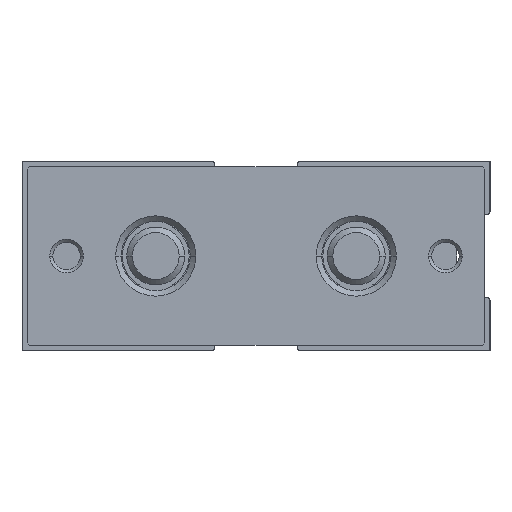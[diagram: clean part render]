
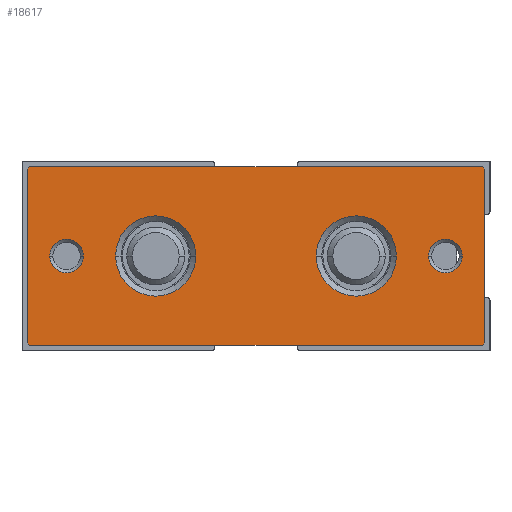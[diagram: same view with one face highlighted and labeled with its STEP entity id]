
A CAD part, left-side view. The second image highlights one B-rep face of the part: STEP entity #18617.
In plain terms, the highlighted planar face has unit normal (-1, 0, 0).
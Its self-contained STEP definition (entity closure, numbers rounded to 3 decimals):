
#213 = AXIS2_PLACEMENT_3D ( 'NONE', #5588, #2145, #14335 ) ;
#222 = VERTEX_POINT ( 'NONE', #12771 ) ;
#280 = VECTOR ( 'NONE', #19187, 1000. ) ;
#383 = CARTESIAN_POINT ( 'NONE',  ( 0., 16., 20.3 ) ) ;
#426 = EDGE_CURVE ( 'NONE', #22476, #20728, #16951, .T. ) ;
#1076 = VERTEX_POINT ( 'NONE', #12300 ) ;
#1451 = EDGE_CURVE ( 'NONE', #22312, #18138, #3182, .T. ) ;
#1710 = CARTESIAN_POINT ( 'NONE',  ( 0., 8., -18.5 ) ) ;
#1715 = ORIENTED_EDGE ( 'NONE', *, *, #426, .F. ) ;
#1783 = PLANE ( 'NONE',  #13578 ) ;
#1932 = VECTOR ( 'NONE', #8802, 1000. ) ;
#2071 = EDGE_CURVE ( 'NONE', #222, #17056, #3910, .T. ) ;
#2145 = DIRECTION ( 'NONE',  ( -1., 0., 0. ) ) ;
#2394 = CARTESIAN_POINT ( 'NONE',  ( 0., 15.8, 20.5 ) ) ;
#2403 = VERTEX_POINT ( 'NONE', #20626 ) ;
#2559 = DIRECTION ( 'NONE',  ( 0., 0.707, 0.707 ) ) ;
#2681 = LINE ( 'NONE', #10565, #19322 ) ;
#2845 = AXIS2_PLACEMENT_3D ( 'NONE', #4913, #9991, #17190 ) ;
#3182 = CIRCLE ( 'NONE', #15525, 1.5 ) ;
#3199 = AXIS2_PLACEMENT_3D ( 'NONE', #9785, #16834, #6094 ) ;
#3461 = EDGE_CURVE ( 'NONE', #8962, #20728, #9820, .T. ) ;
#3619 = EDGE_CURVE ( 'NONE', #9625, #4781, #18855, .T. ) ;
#3632 = ORIENTED_EDGE ( 'NONE', *, *, #21584, .F. ) ;
#3910 = CIRCLE ( 'NONE', #17027, 3.6 ) ;
#3973 = LINE ( 'NONE', #7692, #16246 ) ;
#4209 = CARTESIAN_POINT ( 'NONE',  ( 0., 0.2, 20.5 ) ) ;
#4326 = VERTEX_POINT ( 'NONE', #16011 ) ;
#4384 = EDGE_CURVE ( 'NONE', #8962, #2403, #2681, .T. ) ;
#4781 = VERTEX_POINT ( 'NONE', #21719 ) ;
#4913 = CARTESIAN_POINT ( 'NONE',  ( 0., 8., 9. ) ) ;
#5035 = CARTESIAN_POINT ( 'NONE',  ( 0., 8., 15.5 ) ) ;
#5552 = EDGE_CURVE ( 'NONE', #16589, #1076, #5688, .T. ) ;
#5588 = CARTESIAN_POINT ( 'NONE',  ( 0., 8., -17. ) ) ;
#5678 = CARTESIAN_POINT ( 'NONE',  ( 0., 8., -9. ) ) ;
#5683 = ORIENTED_EDGE ( 'NONE', *, *, #17288, .T. ) ;
#5688 = CIRCLE ( 'NONE', #17853, 1.5 ) ;
#5771 = CARTESIAN_POINT ( 'NONE',  ( 0., 0.2, -20.5 ) ) ;
#5876 = ORIENTED_EDGE ( 'NONE', *, *, #20905, .F. ) ;
#6086 = CARTESIAN_POINT ( 'NONE',  ( 0., 15.8, -20.5 ) ) ;
#6094 = DIRECTION ( 'NONE',  ( 0., 0., 1. ) ) ;
#6449 = DIRECTION ( 'NONE',  ( 0., 0., 1. ) ) ;
#6590 = EDGE_LOOP ( 'NONE', ( #20164, #16697 ) ) ;
#6711 = CIRCLE ( 'NONE', #9252, 1.5 ) ;
#6776 = ORIENTED_EDGE ( 'NONE', *, *, #3619, .T. ) ;
#6869 = ORIENTED_EDGE ( 'NONE', *, *, #1451, .F. ) ;
#6955 = AXIS2_PLACEMENT_3D ( 'NONE', #19544, #12065, #21137 ) ;
#7390 = CARTESIAN_POINT ( 'NONE',  ( 0., 0., 20.3 ) ) ;
#7398 = CARTESIAN_POINT ( 'NONE',  ( 0., 0., 0. ) ) ;
#7464 = CARTESIAN_POINT ( 'NONE',  ( 0., 0., -20.3 ) ) ;
#7669 = ORIENTED_EDGE ( 'NONE', *, *, #3461, .T. ) ;
#7684 = ORIENTED_EDGE ( 'NONE', *, *, #20576, .T. ) ;
#7692 = CARTESIAN_POINT ( 'NONE',  ( 0., 16., -20.3 ) ) ;
#8046 = FACE_BOUND ( 'NONE', #14387, .T. ) ;
#8206 = DIRECTION ( 'NONE',  ( -1., 0., 0. ) ) ;
#8254 = CARTESIAN_POINT ( 'NONE',  ( 0., 15.8, -20.5 ) ) ;
#8717 = CARTESIAN_POINT ( 'NONE',  ( 0., 8., -17. ) ) ;
#8802 = DIRECTION ( 'NONE',  ( 0., -0.707, 0.707 ) ) ;
#8915 = DIRECTION ( 'NONE',  ( 0., -0.707, -0.707 ) ) ;
#8962 = VERTEX_POINT ( 'NONE', #4209 ) ;
#9207 = DIRECTION ( 'NONE',  ( 1., 0., 0. ) ) ;
#9252 = AXIS2_PLACEMENT_3D ( 'NONE', #13607, #8206, #10074 ) ;
#9625 = VERTEX_POINT ( 'NONE', #8254 ) ;
#9694 = CIRCLE ( 'NONE', #3199, 3.6 ) ;
#9785 = CARTESIAN_POINT ( 'NONE',  ( 0., 8., -9. ) ) ;
#9820 = LINE ( 'NONE', #20101, #14428 ) ;
#9882 = DIRECTION ( 'NONE',  ( 0., 1., 0. ) ) ;
#9911 = FACE_OUTER_BOUND ( 'NONE', #19866, .T. ) ;
#9930 = ORIENTED_EDGE ( 'NONE', *, *, #2071, .F. ) ;
#9991 = DIRECTION ( 'NONE',  ( -1., 0., 0. ) ) ;
#10037 = EDGE_CURVE ( 'NONE', #22476, #4326, #3973, .T. ) ;
#10074 = DIRECTION ( 'NONE',  ( 0., 0., 1. ) ) ;
#10386 = ORIENTED_EDGE ( 'NONE', *, *, #17916, .F. ) ;
#10565 = CARTESIAN_POINT ( 'NONE',  ( 0., 0.2, 20.5 ) ) ;
#10623 = DIRECTION ( 'NONE',  ( 0., -1., 0. ) ) ;
#10637 = EDGE_CURVE ( 'NONE', #1076, #16589, #6711, .T. ) ;
#10816 = LINE ( 'NONE', #6086, #13593 ) ;
#10952 = EDGE_CURVE ( 'NONE', #18138, #22312, #18710, .T. ) ;
#11349 = CARTESIAN_POINT ( 'NONE',  ( 0., 8., -12.6 ) ) ;
#11380 = VERTEX_POINT ( 'NONE', #21398 ) ;
#11523 = CARTESIAN_POINT ( 'NONE',  ( 0., 8., 17. ) ) ;
#11553 = FACE_BOUND ( 'NONE', #6590, .T. ) ;
#11662 = CARTESIAN_POINT ( 'NONE',  ( 0., 8., 12.6 ) ) ;
#11922 = VECTOR ( 'NONE', #18075, 1000. ) ;
#12065 = DIRECTION ( 'NONE',  ( -1., 0., 0. ) ) ;
#12300 = CARTESIAN_POINT ( 'NONE',  ( 0., 8., 18.5 ) ) ;
#12771 = CARTESIAN_POINT ( 'NONE',  ( 0., 8., -5.4 ) ) ;
#13144 = DIRECTION ( 'NONE',  ( -1., 0., 0. ) ) ;
#13209 = FACE_BOUND ( 'NONE', #22117, .T. ) ;
#13532 = DIRECTION ( 'NONE',  ( -1., 0., 0. ) ) ;
#13578 = AXIS2_PLACEMENT_3D ( 'NONE', #7398, #9207, #17925 ) ;
#13593 = VECTOR ( 'NONE', #2559, 1000. ) ;
#13607 = CARTESIAN_POINT ( 'NONE',  ( 0., 8., 17. ) ) ;
#13824 = CARTESIAN_POINT ( 'NONE',  ( 0., 16., 20.3 ) ) ;
#13920 = CARTESIAN_POINT ( 'NONE',  ( 0., 0., -20.3 ) ) ;
#14217 = DIRECTION ( 'NONE',  ( -1., 0., 0. ) ) ;
#14335 = DIRECTION ( 'NONE',  ( 0., 0., 1. ) ) ;
#14387 = EDGE_LOOP ( 'NONE', ( #5876, #21047 ) ) ;
#14428 = VECTOR ( 'NONE', #9882, 1000. ) ;
#14465 = LINE ( 'NONE', #13920, #280 ) ;
#14673 = EDGE_LOOP ( 'NONE', ( #9930, #10386 ) ) ;
#15052 = DIRECTION ( 'NONE',  ( 0., 0., 1. ) ) ;
#15117 = FACE_BOUND ( 'NONE', #14673, .T. ) ;
#15281 = VERTEX_POINT ( 'NONE', #7464 ) ;
#15525 = AXIS2_PLACEMENT_3D ( 'NONE', #8717, #13144, #15052 ) ;
#16011 = CARTESIAN_POINT ( 'NONE',  ( 0., 16., -20.3 ) ) ;
#16235 = ORIENTED_EDGE ( 'NONE', *, *, #4384, .F. ) ;
#16246 = VECTOR ( 'NONE', #18200, 1000. ) ;
#16589 = VERTEX_POINT ( 'NONE', #5035 ) ;
#16697 = ORIENTED_EDGE ( 'NONE', *, *, #5552, .F. ) ;
#16708 = ORIENTED_EDGE ( 'NONE', *, *, #10037, .T. ) ;
#16834 = DIRECTION ( 'NONE',  ( -1., 0., 0. ) ) ;
#16951 = LINE ( 'NONE', #13824, #1932 ) ;
#17027 = AXIS2_PLACEMENT_3D ( 'NONE', #5678, #14217, #17899 ) ;
#17056 = VERTEX_POINT ( 'NONE', #11349 ) ;
#17063 = VERTEX_POINT ( 'NONE', #11662 ) ;
#17190 = DIRECTION ( 'NONE',  ( 0., 0., 1. ) ) ;
#17203 = VECTOR ( 'NONE', #10623, 1000. ) ;
#17288 = EDGE_CURVE ( 'NONE', #15281, #2403, #20408, .T. ) ;
#17734 = CARTESIAN_POINT ( 'NONE',  ( 0., 8., -15.5 ) ) ;
#17853 = AXIS2_PLACEMENT_3D ( 'NONE', #11523, #13532, #6449 ) ;
#17899 = DIRECTION ( 'NONE',  ( 0., 0., 1. ) ) ;
#17916 = EDGE_CURVE ( 'NONE', #17056, #222, #9694, .T. ) ;
#17925 = DIRECTION ( 'NONE',  ( 0., 0., -1. ) ) ;
#18075 = DIRECTION ( 'NONE',  ( 0., 0., 1. ) ) ;
#18138 = VERTEX_POINT ( 'NONE', #17734 ) ;
#18200 = DIRECTION ( 'NONE',  ( 0., 0., -1. ) ) ;
#18617 = ADVANCED_FACE ( 'NONE', ( #9911, #11553, #13209, #8046, #15117 ), #1783, .F. ) ;
#18710 = CIRCLE ( 'NONE', #213, 1.5 ) ;
#18855 = LINE ( 'NONE', #5771, #17203 ) ;
#19187 = DIRECTION ( 'NONE',  ( 0., -0.707, 0.707 ) ) ;
#19322 = VECTOR ( 'NONE', #8915, 1000. ) ;
#19544 = CARTESIAN_POINT ( 'NONE',  ( 0., 8., 9. ) ) ;
#19866 = EDGE_LOOP ( 'NONE', ( #1715, #16708, #3632, #6776, #7684, #5683, #16235, #7669 ) ) ;
#20101 = CARTESIAN_POINT ( 'NONE',  ( 0., 15.8, 20.5 ) ) ;
#20164 = ORIENTED_EDGE ( 'NONE', *, *, #10637, .F. ) ;
#20328 = ORIENTED_EDGE ( 'NONE', *, *, #10952, .F. ) ;
#20408 = LINE ( 'NONE', #7390, #11922 ) ;
#20576 = EDGE_CURVE ( 'NONE', #4781, #15281, #14465, .T. ) ;
#20626 = CARTESIAN_POINT ( 'NONE',  ( 0., 0., 20.3 ) ) ;
#20674 = CIRCLE ( 'NONE', #6955, 3.6 ) ;
#20728 = VERTEX_POINT ( 'NONE', #2394 ) ;
#20905 = EDGE_CURVE ( 'NONE', #17063, #11380, #22373, .T. ) ;
#21047 = ORIENTED_EDGE ( 'NONE', *, *, #21472, .F. ) ;
#21137 = DIRECTION ( 'NONE',  ( 0., 0., 1. ) ) ;
#21398 = CARTESIAN_POINT ( 'NONE',  ( 0., 8., 5.4 ) ) ;
#21472 = EDGE_CURVE ( 'NONE', #11380, #17063, #20674, .T. ) ;
#21584 = EDGE_CURVE ( 'NONE', #9625, #4326, #10816, .T. ) ;
#21719 = CARTESIAN_POINT ( 'NONE',  ( 0., 0.2, -20.5 ) ) ;
#22117 = EDGE_LOOP ( 'NONE', ( #20328, #6869 ) ) ;
#22312 = VERTEX_POINT ( 'NONE', #1710 ) ;
#22373 = CIRCLE ( 'NONE', #2845, 3.6 ) ;
#22476 = VERTEX_POINT ( 'NONE', #383 ) ;
